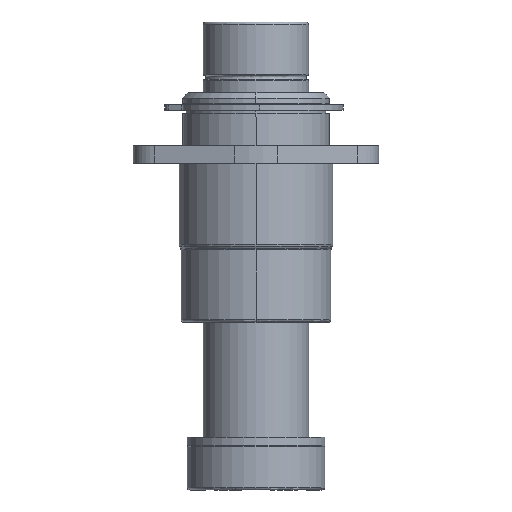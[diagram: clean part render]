
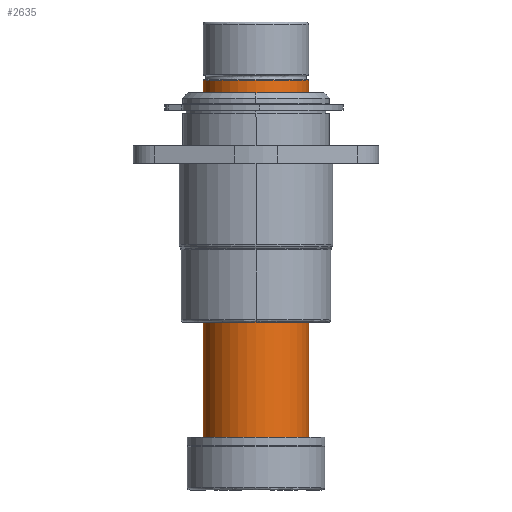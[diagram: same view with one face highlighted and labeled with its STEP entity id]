
A CAD part, front view. The second image highlights one B-rep face of the part: STEP entity #2635.
In plain terms, the highlighted cylindrical face has radius 19.028 mm (diameter 38.057 mm), a partial arc.
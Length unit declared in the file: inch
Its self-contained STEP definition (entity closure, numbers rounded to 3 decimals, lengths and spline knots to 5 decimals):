
#97 = CARTESIAN_POINT ( 'NONE',  ( 0.74915, 0., -0.82499 ) ) ;
#225 = CARTESIAN_POINT ( 'NONE',  ( 0.74915, 0., -6.455 ) ) ;
#307 = DIRECTION ( 'NONE',  ( 0., 0., 1. ) ) ;
#625 = CARTESIAN_POINT ( 'NONE',  ( -0.74915, 0., -0.82499 ) ) ;
#631 = ORIENTED_EDGE ( 'NONE', *, *, #2341, .F. ) ;
#1130 = DIRECTION ( 'NONE',  ( 0., 0., -1. ) ) ;
#1169 = EDGE_CURVE ( 'NONE', #2038, #1504, #2024, .T. ) ;
#1470 = CYLINDRICAL_SURFACE ( 'NONE', #2080, 0.74915 ) ;
#1504 = VERTEX_POINT ( 'NONE', #97 ) ;
#1761 = CIRCLE ( 'NONE', #4835, 0.74915 ) ;
#1863 = VERTEX_POINT ( 'NONE', #625 ) ;
#2024 = LINE ( 'NONE', #225, #4916 ) ;
#2038 = VERTEX_POINT ( 'NONE', #3466 ) ;
#2080 = AXIS2_PLACEMENT_3D ( 'NONE', #3412, #307, #2259 ) ;
#2118 = AXIS2_PLACEMENT_3D ( 'NONE', #2645, #3081, #3482 ) ;
#2125 = CARTESIAN_POINT ( 'NONE',  ( -0.74915, 0., -6. ) ) ;
#2259 = DIRECTION ( 'NONE',  ( 1., 0., 0. ) ) ;
#2279 = VECTOR ( 'NONE', #2874, 39.37008 ) ;
#2341 = EDGE_CURVE ( 'NONE', #3497, #1863, #3273, .T. ) ;
#2635 = ADVANCED_FACE ( 'NONE', ( #3019 ), #1470, .T. ) ;
#2645 = CARTESIAN_POINT ( 'NONE',  ( 0., 0., -6. ) ) ;
#2874 = DIRECTION ( 'NONE',  ( 0., 0., 1. ) ) ;
#2904 = EDGE_CURVE ( 'NONE', #3497, #2038, #2949, .T. ) ;
#2925 = ORIENTED_EDGE ( 'NONE', *, *, #2904, .T. ) ;
#2949 = CIRCLE ( 'NONE', #2118, 0.74915 ) ;
#3019 = FACE_OUTER_BOUND ( 'NONE', #4401, .T. ) ;
#3020 = DIRECTION ( 'NONE',  ( 1., 0., 0. ) ) ;
#3081 = DIRECTION ( 'NONE',  ( 0., 0., 1. ) ) ;
#3273 = LINE ( 'NONE', #4382, #2279 ) ;
#3412 = CARTESIAN_POINT ( 'NONE',  ( 0., 0., -6.455 ) ) ;
#3427 = CARTESIAN_POINT ( 'NONE',  ( 0., 0., -0.82499 ) ) ;
#3466 = CARTESIAN_POINT ( 'NONE',  ( 0.74915, 0., -6. ) ) ;
#3482 = DIRECTION ( 'NONE',  ( 1., 0., 0. ) ) ;
#3497 = VERTEX_POINT ( 'NONE', #2125 ) ;
#3861 = ORIENTED_EDGE ( 'NONE', *, *, #4319, .T. ) ;
#4319 = EDGE_CURVE ( 'NONE', #1504, #1863, #1761, .T. ) ;
#4382 = CARTESIAN_POINT ( 'NONE',  ( -0.74915, 0., -6.455 ) ) ;
#4401 = EDGE_LOOP ( 'NONE', ( #631, #2925, #4829, #3861 ) ) ;
#4483 = DIRECTION ( 'NONE',  ( 0., 0., 1. ) ) ;
#4829 = ORIENTED_EDGE ( 'NONE', *, *, #1169, .T. ) ;
#4835 = AXIS2_PLACEMENT_3D ( 'NONE', #3427, #1130, #3020 ) ;
#4916 = VECTOR ( 'NONE', #4483, 39.37008 ) ;
